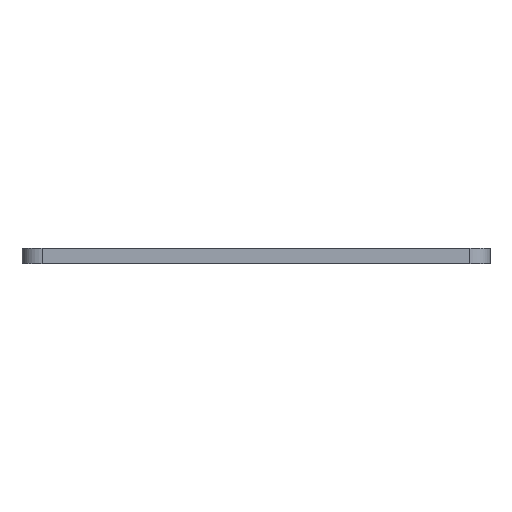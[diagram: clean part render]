
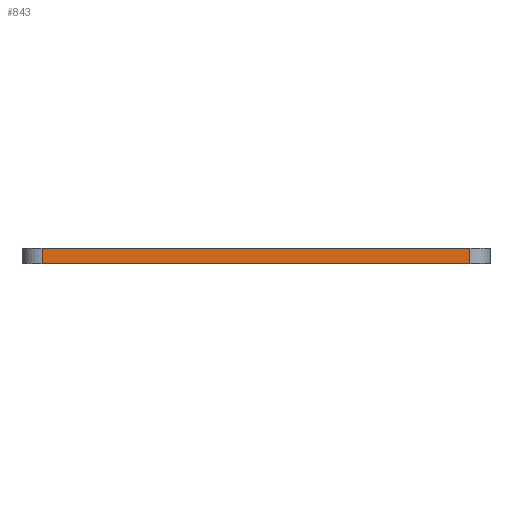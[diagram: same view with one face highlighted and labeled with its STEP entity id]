
A CAD part, top view. The second image highlights one B-rep face of the part: STEP entity #843.
In plain terms, the highlighted planar face has unit normal (0, 0, 1).
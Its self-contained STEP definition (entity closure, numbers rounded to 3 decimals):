
#55 = EDGE_LOOP ( 'NONE', ( #254, #1121, #984, #390 ) ) ;
#77 = CARTESIAN_POINT ( 'NONE',  ( -64., 4.5, 70. ) ) ;
#79 = LINE ( 'NONE', #155, #449 ) ;
#86 = FACE_OUTER_BOUND ( 'NONE', #55, .T. ) ;
#114 = CARTESIAN_POINT ( 'NONE',  ( -64., 4.5, 70. ) ) ;
#147 = VERTEX_POINT ( 'NONE', #1181 ) ;
#155 = CARTESIAN_POINT ( 'NONE',  ( 64., 4.5, 70. ) ) ;
#202 = LINE ( 'NONE', #950, #977 ) ;
#254 = ORIENTED_EDGE ( 'NONE', *, *, #361, .T. ) ;
#287 = DIRECTION ( 'NONE',  ( 0., 0., -1. ) ) ;
#296 = PLANE ( 'NONE',  #1193 ) ;
#361 = EDGE_CURVE ( 'NONE', #1079, #889, #202, .T. ) ;
#390 = ORIENTED_EDGE ( 'NONE', *, *, #588, .T. ) ;
#449 = VECTOR ( 'NONE', #842, 1000. ) ;
#517 = VERTEX_POINT ( 'NONE', #114 ) ;
#588 = EDGE_CURVE ( 'NONE', #517, #1079, #995, .T. ) ;
#605 = CARTESIAN_POINT ( 'NONE',  ( -64., 4.5, 70. ) ) ;
#645 = DIRECTION ( 'NONE',  ( 1., 0., 0. ) ) ;
#728 = EDGE_CURVE ( 'NONE', #517, #147, #1226, .T. ) ;
#842 = DIRECTION ( 'NONE',  ( 0., -1., 0. ) ) ;
#843 = ADVANCED_FACE ( 'NONE', ( #86 ), #296, .F. ) ;
#871 = DIRECTION ( 'NONE',  ( -1., 0., 0. ) ) ;
#889 = VERTEX_POINT ( 'NONE', #1077 ) ;
#909 = DIRECTION ( 'NONE',  ( 0., -1., 0. ) ) ;
#910 = EDGE_CURVE ( 'NONE', #147, #889, #79, .T. ) ;
#950 = CARTESIAN_POINT ( 'NONE',  ( -64., 0., 70. ) ) ;
#959 = DIRECTION ( 'NONE',  ( 1., 0., 0. ) ) ;
#977 = VECTOR ( 'NONE', #959, 1000. ) ;
#980 = VECTOR ( 'NONE', #645, 1000. ) ;
#984 = ORIENTED_EDGE ( 'NONE', *, *, #728, .F. ) ;
#995 = LINE ( 'NONE', #605, #1254 ) ;
#1028 = CARTESIAN_POINT ( 'NONE',  ( -64., 4.5, 70. ) ) ;
#1077 = CARTESIAN_POINT ( 'NONE',  ( 64., 0., 70. ) ) ;
#1079 = VERTEX_POINT ( 'NONE', #1187 ) ;
#1121 = ORIENTED_EDGE ( 'NONE', *, *, #910, .F. ) ;
#1181 = CARTESIAN_POINT ( 'NONE',  ( 64., 4.5, 70. ) ) ;
#1187 = CARTESIAN_POINT ( 'NONE',  ( -64., 0., 70. ) ) ;
#1193 = AXIS2_PLACEMENT_3D ( 'NONE', #77, #287, #871 ) ;
#1226 = LINE ( 'NONE', #1028, #980 ) ;
#1254 = VECTOR ( 'NONE', #909, 1000. ) ;
